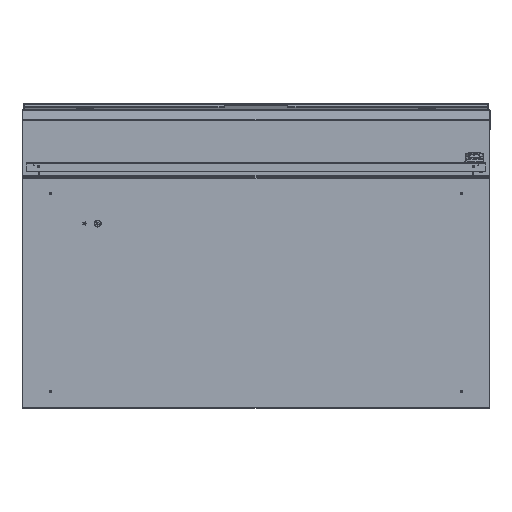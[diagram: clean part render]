
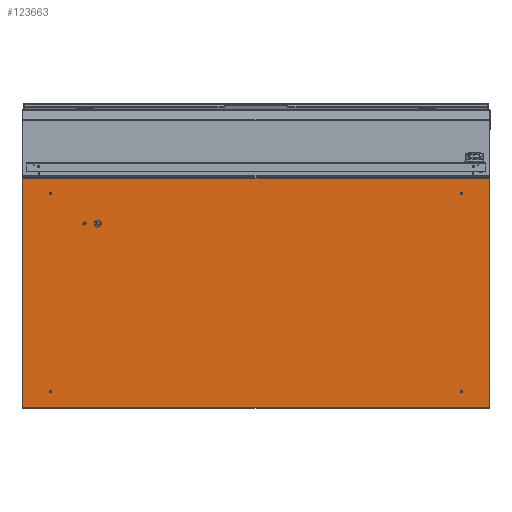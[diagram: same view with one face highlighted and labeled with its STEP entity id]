
A CAD part, front view. The second image highlights one B-rep face of the part: STEP entity #123663.
In plain terms, the highlighted planar face has unit normal (0, -1, 0) as drawn and (0, 0, -1) by its records, which use the part's own axes.
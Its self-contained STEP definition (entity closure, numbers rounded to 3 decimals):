
#23370 = CARTESIAN_POINT ( 'NONE',  ( 7.846, -16.348, 0. ) ) ;
#23371 = CARTESIAN_POINT ( 'NONE',  ( 7.942, -16.348, 0. ) ) ;
#23373 = CARTESIAN_POINT ( 'NONE',  ( 7.846, 16.348, 0. ) ) ;
#23374 = CARTESIAN_POINT ( 'NONE',  ( 7.942, 16.348, 0. ) ) ;
#23376 = CARTESIAN_POINT ( 'NONE',  ( -7.871, -16.348, 0. ) ) ;
#23377 = CARTESIAN_POINT ( 'NONE',  ( -7.774, -16.348, 0. ) ) ;
#23394 = CARTESIAN_POINT ( 'NONE',  ( -7.871, 16.348, 0. ) ) ;
#23395 = CARTESIAN_POINT ( 'NONE',  ( -7.774, 16.348, 0. ) ) ;
#26180 = CIRCLE ( 'NONE', #27313, 0.048 ) ;
#26181 = CIRCLE ( 'NONE', #27314, 0.048 ) ;
#26189 = CIRCLE ( 'NONE', #27317, 0.048 ) ;
#26220 = CIRCLE ( 'NONE', #27331, 0.048 ) ;
#26344 = LINE ( 'NONE', #27980, #26346 ) ;
#26345 = CIRCLE ( 'NONE', #27343, 0.048 ) ;
#26346 = VECTOR ( 'NONE', #27989, 39.37 ) ;
#26349 = VECTOR ( 'NONE', #28015, 39.37 ) ;
#26350 = LINE ( 'NONE', #27992, #26351 ) ;
#26351 = VECTOR ( 'NONE', #27993, 39.37 ) ;
#26353 = LINE ( 'NONE', #28008, #26356 ) ;
#26354 = LINE ( 'NONE', #28014, #26349 ) ;
#26355 = CIRCLE ( 'NONE', #27340, 0.048 ) ;
#26356 = VECTOR ( 'NONE', #28009, 39.37 ) ;
#26357 = CIRCLE ( 'NONE', #27342, 0.048 ) ;
#26358 = CIRCLE ( 'NONE', #27346, 0.048 ) ;
#27313 = AXIS2_PLACEMENT_3D ( 'NONE', #27762, #27763, #27764 ) ;
#27314 = AXIS2_PLACEMENT_3D ( 'NONE', #27765, #27766, #27767 ) ;
#27317 = AXIS2_PLACEMENT_3D ( 'NONE', #27776, #27777, #27778 ) ;
#27331 = AXIS2_PLACEMENT_3D ( 'NONE', #27839, #27840, #27841 ) ;
#27340 = AXIS2_PLACEMENT_3D ( 'NONE', #27999, #28001, #28002 ) ;
#27342 = AXIS2_PLACEMENT_3D ( 'NONE', #27996, #28003, #28004 ) ;
#27343 = AXIS2_PLACEMENT_3D ( 'NONE', #27983, #27984, #27985 ) ;
#27346 = AXIS2_PLACEMENT_3D ( 'NONE', #28000, #28005, #28006 ) ;
#27762 = CARTESIAN_POINT ( 'NONE',  ( 7.894, 16.348, 0. ) ) ;
#27763 = DIRECTION ( 'NONE',  ( 0., 0., 1. ) ) ;
#27764 = DIRECTION ( 'NONE',  ( 1., 0., 0. ) ) ;
#27765 = CARTESIAN_POINT ( 'NONE',  ( 7.894, -16.348, 0. ) ) ;
#27766 = DIRECTION ( 'NONE',  ( 0., 0., 1. ) ) ;
#27767 = DIRECTION ( 'NONE',  ( 1., 0., 0. ) ) ;
#27776 = CARTESIAN_POINT ( 'NONE',  ( -7.822, -16.348, 0. ) ) ;
#27777 = DIRECTION ( 'NONE',  ( 0., 0., 1. ) ) ;
#27778 = DIRECTION ( 'NONE',  ( 1., 0., 0. ) ) ;
#27839 = CARTESIAN_POINT ( 'NONE',  ( -7.822, 16.348, 0. ) ) ;
#27840 = DIRECTION ( 'NONE',  ( 0., 0., 1. ) ) ;
#27841 = DIRECTION ( 'NONE',  ( 1., 0., 0. ) ) ;
#27980 = CARTESIAN_POINT ( 'NONE',  ( -9.196, -18.546, 0. ) ) ;
#27983 = CARTESIAN_POINT ( 'NONE',  ( -7.822, -16.348, 0. ) ) ;
#27984 = DIRECTION ( 'NONE',  ( 0., 0., 1. ) ) ;
#27985 = DIRECTION ( 'NONE',  ( 1., 0., 0. ) ) ;
#27989 = DIRECTION ( 'NONE',  ( 1., 0., 0. ) ) ;
#27992 = CARTESIAN_POINT ( 'NONE',  ( -9.196, 18.546, 0. ) ) ;
#27993 = DIRECTION ( 'NONE',  ( -1., 0., 0. ) ) ;
#27996 = CARTESIAN_POINT ( 'NONE',  ( 7.894, 16.348, 0. ) ) ;
#27999 = CARTESIAN_POINT ( 'NONE',  ( 7.894, -16.348, 0. ) ) ;
#28000 = CARTESIAN_POINT ( 'NONE',  ( -7.822, 16.348, 0. ) ) ;
#28001 = DIRECTION ( 'NONE',  ( 0., 0., 1. ) ) ;
#28002 = DIRECTION ( 'NONE',  ( 1., 0., 0. ) ) ;
#28003 = DIRECTION ( 'NONE',  ( 0., 0., 1. ) ) ;
#28004 = DIRECTION ( 'NONE',  ( 1., 0., 0. ) ) ;
#28005 = DIRECTION ( 'NONE',  ( 0., 0., 1. ) ) ;
#28006 = DIRECTION ( 'NONE',  ( 1., 0., 0. ) ) ;
#28008 = CARTESIAN_POINT ( 'NONE',  ( -9.064, -18.546, 0. ) ) ;
#28009 = DIRECTION ( 'NONE',  ( 0., 1., 0. ) ) ;
#28014 = CARTESIAN_POINT ( 'NONE',  ( 9.196, 18.546, 0. ) ) ;
#28015 = DIRECTION ( 'NONE',  ( 0., 1., 0. ) ) ;
#28156 = CARTESIAN_POINT ( 'NONE',  ( -9.064, -18.546, 0. ) ) ;
#28157 = CARTESIAN_POINT ( 'NONE',  ( 9.196, -18.546, 0. ) ) ;
#28158 = CARTESIAN_POINT ( 'NONE',  ( -9.064, 18.546, 0. ) ) ;
#28159 = CARTESIAN_POINT ( 'NONE',  ( 9.196, 18.546, 0. ) ) ;
#30799 = VERTEX_POINT ( 'NONE', #23370 ) ;
#30800 = VERTEX_POINT ( 'NONE', #23371 ) ;
#30802 = VERTEX_POINT ( 'NONE', #23373 ) ;
#30803 = VERTEX_POINT ( 'NONE', #23374 ) ;
#30805 = VERTEX_POINT ( 'NONE', #23376 ) ;
#30806 = VERTEX_POINT ( 'NONE', #23377 ) ;
#30837 = VERTEX_POINT ( 'NONE', #23394 ) ;
#30839 = VERTEX_POINT ( 'NONE', #23395 ) ;
#31584 = EDGE_LOOP ( 'NONE', ( #35792, #35795 ) ) ;
#31601 = EDGE_LOOP ( 'NONE', ( #35797, #35799 ) ) ;
#31603 = EDGE_LOOP ( 'NONE', ( #35801, #35803 ) ) ;
#31605 = EDGE_LOOP ( 'NONE', ( #35806, #35808 ) ) ;
#31606 = EDGE_LOOP ( 'NONE', ( #35810, #35812, #35814, #35817 ) ) ;
#35352 = EDGE_CURVE ( 'NONE', #30802, #30803, #26180, .T. ) ;
#35354 = EDGE_CURVE ( 'NONE', #30799, #30800, #26181, .T. ) ;
#35358 = EDGE_CURVE ( 'NONE', #30805, #30806, #26189, .T. ) ;
#35792 = ORIENTED_EDGE ( 'NONE', *, *, #35354, .T. ) ;
#35795 = ORIENTED_EDGE ( 'NONE', *, *, #38645, .T. ) ;
#35797 = ORIENTED_EDGE ( 'NONE', *, *, #35352, .T. ) ;
#35799 = ORIENTED_EDGE ( 'NONE', *, *, #38647, .T. ) ;
#35801 = ORIENTED_EDGE ( 'NONE', *, *, #35358, .T. ) ;
#35803 = ORIENTED_EDGE ( 'NONE', *, *, #38628, .T. ) ;
#35806 = ORIENTED_EDGE ( 'NONE', *, *, #38469, .T. ) ;
#35808 = ORIENTED_EDGE ( 'NONE', *, *, #38650, .T. ) ;
#35810 = ORIENTED_EDGE ( 'NONE', *, *, #38652, .T. ) ;
#35812 = ORIENTED_EDGE ( 'NONE', *, *, #38638, .F. ) ;
#35814 = ORIENTED_EDGE ( 'NONE', *, *, #38657, .F. ) ;
#35817 = ORIENTED_EDGE ( 'NONE', *, *, #38633, .F. ) ;
#38469 = EDGE_CURVE ( 'NONE', #30837, #30839, #26220, .T. ) ;
#38628 = EDGE_CURVE ( 'NONE', #30806, #30805, #26345, .T. ) ;
#38633 = EDGE_CURVE ( 'NONE', #40202, #40203, #26344, .T. ) ;
#38638 = EDGE_CURVE ( 'NONE', #40207, #40205, #26350, .T. ) ;
#38645 = EDGE_CURVE ( 'NONE', #30800, #30799, #26355, .T. ) ;
#38647 = EDGE_CURVE ( 'NONE', #30803, #30802, #26357, .T. ) ;
#38650 = EDGE_CURVE ( 'NONE', #30839, #30837, #26358, .T. ) ;
#38652 = EDGE_CURVE ( 'NONE', #40202, #40205, #26353, .T. ) ;
#38657 = EDGE_CURVE ( 'NONE', #40203, #40207, #26354, .T. ) ;
#40202 = VERTEX_POINT ( 'NONE', #28156 ) ;
#40203 = VERTEX_POINT ( 'NONE', #28157 ) ;
#40205 = VERTEX_POINT ( 'NONE', #28158 ) ;
#40207 = VERTEX_POINT ( 'NONE', #28159 ) ;
#86432 = FACE_BOUND ( 'NONE', #31584, .T. ) ;
#86433 = FACE_OUTER_BOUND ( 'NONE', #31606, .T. ) ;
#86438 = FACE_BOUND ( 'NONE', #31601, .T. ) ;
#86441 = FACE_BOUND ( 'NONE', #31603, .T. ) ;
#86444 = FACE_BOUND ( 'NONE', #31605, .T. ) ;
#93712 = AXIS2_PLACEMENT_3D ( 'NONE', #94365, #94367, #94368 ) ;
#94357 = PLANE ( 'NONE',  #93712 ) ;
#94365 = CARTESIAN_POINT ( 'NONE',  ( -9.196, -18.546, 0. ) ) ;
#94367 = DIRECTION ( 'NONE',  ( 0., 0., 1. ) ) ;
#94368 = DIRECTION ( 'NONE',  ( 1., 0., 0. ) ) ;
#123663 = ADVANCED_FACE ( 'NONE', ( #86432, #86438, #86441, #86444, #86433 ), #94357, .F. ) ;
